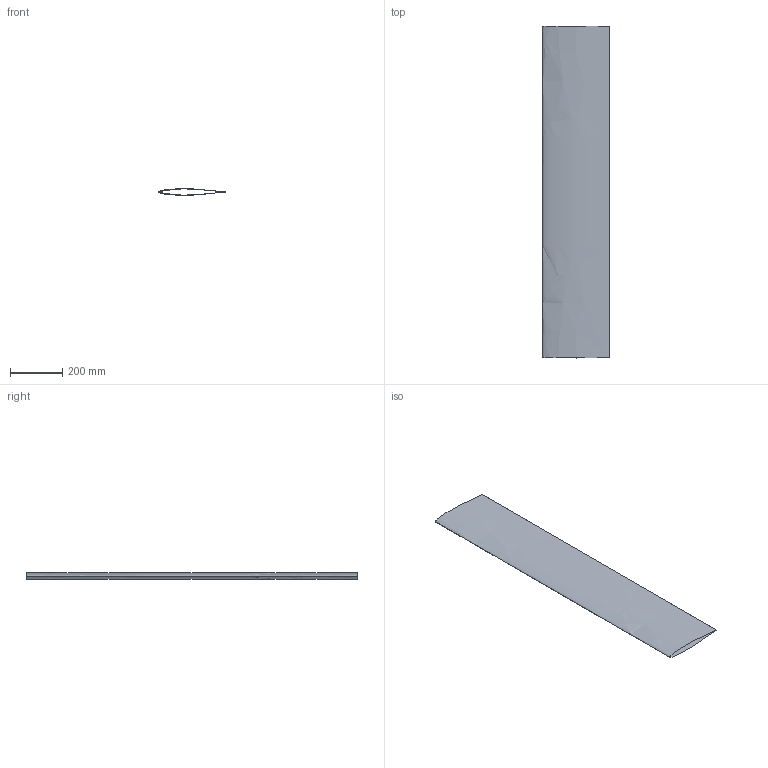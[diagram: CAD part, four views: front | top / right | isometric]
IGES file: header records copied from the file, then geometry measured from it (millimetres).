
Start section:                            GENERAL DYNAMICS   IGES FILE FROM ACAD.  IF PROBLEMS ARE ENCOUNTERED WITH THIS FILE   CONTACT THE PRELIMINARY DESIGN METHODS GROUP IN FORT WORTH, TEXAS AT   (817) 763-4560.   THIS FILE WAS WRITTEN USING A SUN4 COMPUTER.
Global section: file name: WING128.IGES; native system: ACAD V7.2O; preprocessor: PREPROC V2.0; author: TOM; organization: GENERAL DYNAMICS F.W.; date: 910514.75250; units: inch
Bounding box: 254 x 1270 x 25.38 mm (x, y, z)
Surface area: 652565.6 mm2 (no closed solid volume)
Topology: 0 solids, 0 shells, 2 faces, 11 edges, 18 vertices
Faces by surface type: bspline 2
